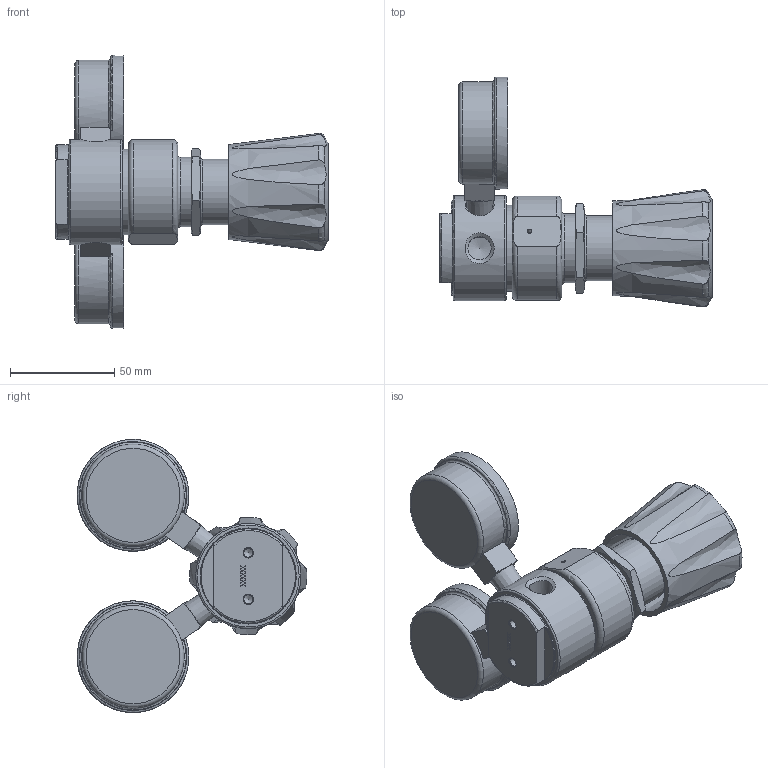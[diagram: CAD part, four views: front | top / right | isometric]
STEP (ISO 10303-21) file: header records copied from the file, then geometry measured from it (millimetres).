
FILE_DESCRIPTION(/* description */ (''),/* implementation_level */ '2;1');
FILE_NAME(/* name */ '44_22XX_24X_02.stp',/* time_stamp */ '2016-07-07T15:18:36+08:00',/* author */ (''),/* organization */ (''),/* preprocessor_version */ 'ST-DEVELOPER v15',/* originating_system */ 'SIEMENS PLM Software NX 9.0',/* authorisation */ '');
FILE_SCHEMA (('AUTOMOTIVE_DESIGN { 1 0 10303 214 3 1 1 1 }'));
Length unit declared in the file: millimetre
Products named in the file (10): 62892_002; 62891_02; 62837-3000N20_A; 8686_002; 8266_U; 4540_002; 61973-1_001; 9400-24XX_002; 62890_001_MODEL; 44-22XX-24X_02
Assembly tree (10 placements, depth 3):
  44-22XX-24X_02
    9400-24XX_002
    61973-1_001
    4540_002
    8266_U
    8686_002
    62890_001_MODEL
      62891_02
      62892_002
    62837-3000N20_A  x2
Bounding box: 130.43 x 109.93 x 130.68 mm (x, y, z)
Volume: 292573.1 mm3; surface area: 69837.5 mm2
Topology: 48 solids, 48 shells, 840 faces, 2043 edges, 1353 vertices
Faces by surface type: plane 525, cylinder 127, extrusion 112, cone 47, torus 25, bspline 4
Full cylindrical faces by diameter (mm): 2.184 x1, 4.2 x2, 6.172 x1, 7.417 x1, 7.925 x1, 8.458 x1, 8.509 x1, 9.398 x1, 11.113 x2, 11.125 x2, 31.242 x1, 32 x2, 32.106 x1, 33.16 x1, 35 x2, 36 x1, 36.563 x1, 38 x1, 41.097 x1, 41.275 x1, 42.466 x1, 43.625 x1, 45.225 x1, 49 x4, 50.305 x1, 53.5 x2
Entity records: 25047 total; most frequent: CARTESIAN_POINT 9496, ORIENTED_EDGE 3262, DIRECTION 2400, EDGE_CURVE 1631, VERTEX_POINT 1120, B_SPLINE_CURVE_WITH_KNOTS 907, AXIS2_PLACEMENT_3D 854, EDGE_LOOP 846
